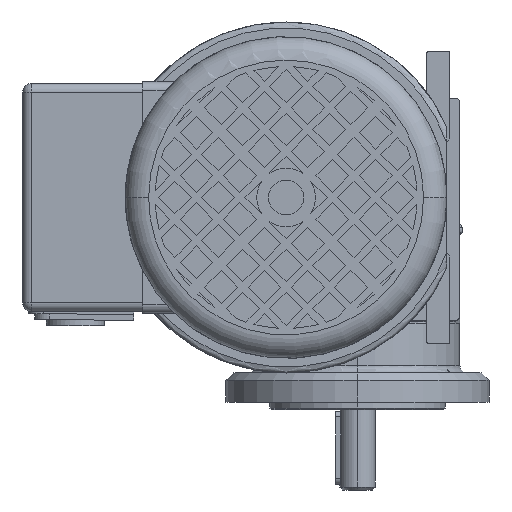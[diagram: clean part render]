
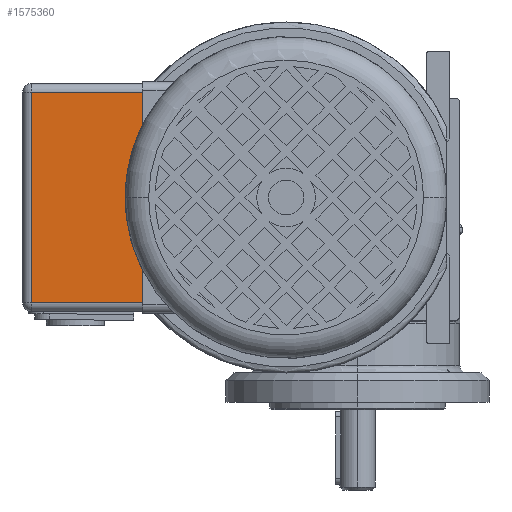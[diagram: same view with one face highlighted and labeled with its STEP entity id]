
A CAD part, left-side view. The second image highlights one B-rep face of the part: STEP entity #1575360.
In plain terms, the highlighted planar face has unit normal (-1, 0, 0) as drawn and (0, 0, -1) by its records, which use the part's own axes.
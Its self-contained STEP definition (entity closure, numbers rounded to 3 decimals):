
#1532460=CARTESIAN_POINT('',(87.,36.,-82.));
#1532470=VERTEX_POINT('',#1532460);
#1553410=CARTESIAN_POINT('',(49.,-36.,-82.));
#1553420=VERTEX_POINT('',#1553410);
#1553450=CARTESIAN_POINT('',(49.,0.,-82.));
#1553460=DIRECTION('',(0.,1.,0.));
#1553470=VECTOR('',#1553460,1.);
#1553480=LINE('',#1553450,#1553470);
#1553490=CARTESIAN_POINT('',(49.,36.,-82.));
#1553500=VERTEX_POINT('',#1553490);
#1553510=EDGE_CURVE('',#1553420,#1553500,#1553480,.T.);
#1575080=CARTESIAN_POINT('',(49.,0.,-82.));
#1575090=DIRECTION('',(0.,0.,-1.));
#1575100=DIRECTION('',(-1.,0.,0.));
#1575110=AXIS2_PLACEMENT_3D('',#1575080,#1575090,#1575100);
#1575120=PLANE('',#1575110);
#1575130=CARTESIAN_POINT('',(87.,0.,-82.));
#1575140=DIRECTION('',(0.,-1.,0.));
#1575150=VECTOR('',#1575140,1.);
#1575160=LINE('',#1575130,#1575150);
#1575170=CARTESIAN_POINT('',(87.,-36.,-82.));
#1575180=VERTEX_POINT('',#1575170);
#1575190=EDGE_CURVE('',#1532470,#1575180,#1575160,.T.);
#1575200=ORIENTED_EDGE('',*,*,#1575190,.T.);
#1575210=CARTESIAN_POINT('',(52.,36.,-82.));
#1575220=DIRECTION('',(1.,0.,0.));
#1575230=VECTOR('',#1575220,1.);
#1575240=LINE('',#1575210,#1575230);
#1575250=EDGE_CURVE('',#1553500,#1532470,#1575240,.T.);
#1575260=ORIENTED_EDGE('',*,*,#1575250,.T.);
#1575270=ORIENTED_EDGE('',*,*,#1553510,.T.);
#1575280=CARTESIAN_POINT('',(52.,-36.,-82.));
#1575290=DIRECTION('',(1.,0.,0.));
#1575300=VECTOR('',#1575290,1.);
#1575310=LINE('',#1575280,#1575300);
#1575320=EDGE_CURVE('',#1553420,#1575180,#1575310,.T.);
#1575330=ORIENTED_EDGE('',*,*,#1575320,.F.);
#1575340=EDGE_LOOP('',(#1575330,#1575270,#1575260,#1575200));
#1575350=FACE_OUTER_BOUND('',#1575340,.T.);
#1575360=ADVANCED_FACE('',(#1575350),#1575120,.T.);
